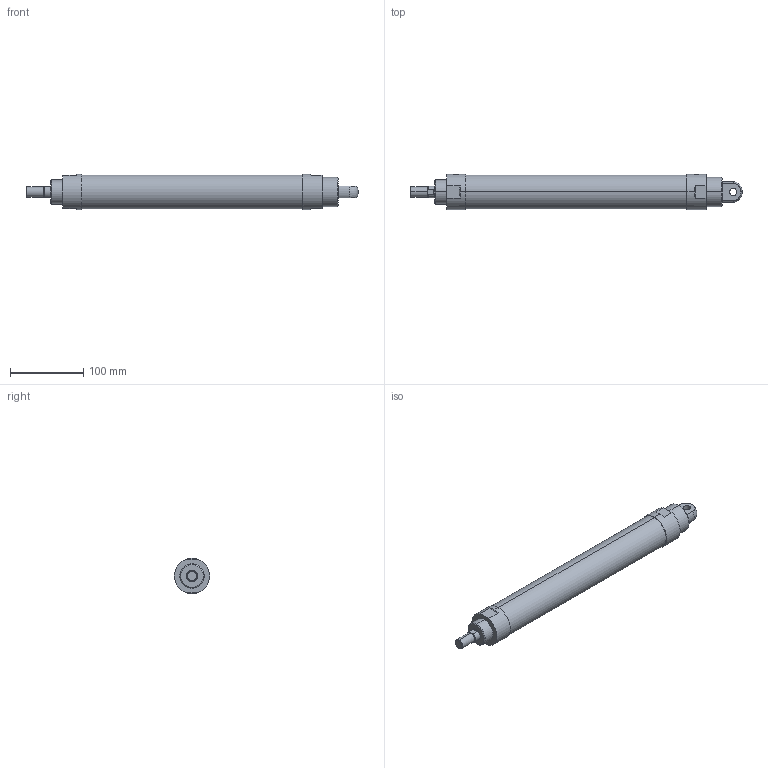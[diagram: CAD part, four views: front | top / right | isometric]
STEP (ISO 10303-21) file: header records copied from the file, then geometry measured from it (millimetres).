
FILE_DESCRIPTION (( 'STEP AP203' ), '1' );
FILE_NAME ('J#2-40-250-C.STEP', '2016-03-08T08:07:38', ( '' ), ( '' ), 'SwSTEP 2.0', 'SolidWorks 2014', '' );
FILE_SCHEMA (( 'CONFIG_CONTROL_DESIGN' ));
Length unit declared in the file: millimetre
Products named in the file (1): J#2-40-250-C
Bounding box: 452 x 48 x 48 mm (x, y, z)
Volume: 646264 mm3; surface area: 64373.4 mm2
Topology: 1 solids, 1 shells, 59 faces, 138 edges, 85 vertices
Faces by surface type: cylinder 22, plane 20, cone 15, torus 2
Entity records: 1988 total; most frequent: CARTESIAN_POINT 566, DIRECTION 293, ORIENTED_EDGE 268, EDGE_CURVE 134, AXIS2_PLACEMENT_3D 118, VERTEX_POINT 85, EDGE_LOOP 69, ADVANCED_FACE 59
